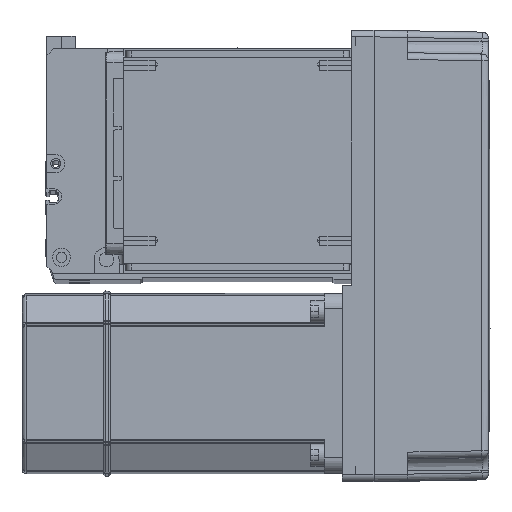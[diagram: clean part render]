
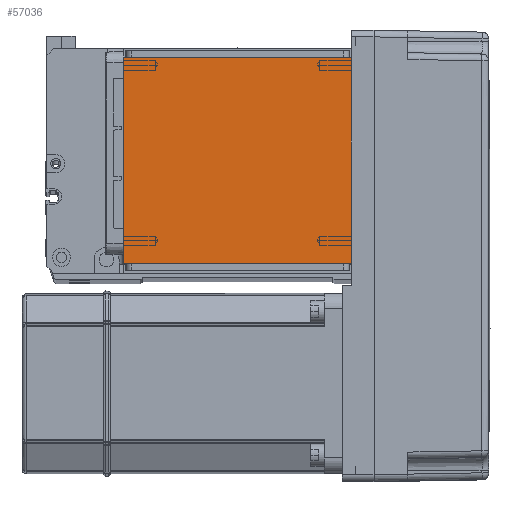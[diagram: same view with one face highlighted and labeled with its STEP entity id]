
A CAD part, top view. The second image highlights one B-rep face of the part: STEP entity #57036.
In plain terms, the highlighted planar face has unit normal (0, 0, 1).
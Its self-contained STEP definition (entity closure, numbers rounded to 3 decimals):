
#367 = DIRECTION ( 'NONE',  ( 1., 0., 0. ) ) ;
#2040 = LINE ( 'NONE', #57524, #12583 ) ;
#3543 = DIRECTION ( 'NONE',  ( -1., 0., 0. ) ) ;
#4272 = FACE_OUTER_BOUND ( 'NONE', #18452, .T. ) ;
#5786 = EDGE_CURVE ( 'NONE', #26214, #55968, #17794, .T. ) ;
#8210 = PLANE ( 'NONE',  #47196 ) ;
#8925 = ORIENTED_EDGE ( 'NONE', *, *, #15091, .T. ) ;
#12583 = VECTOR ( 'NONE', #22118, 1000. ) ;
#15091 = EDGE_CURVE ( 'NONE', #26214, #53129, #2040, .T. ) ;
#17794 = LINE ( 'NONE', #20639, #52103 ) ;
#18055 = CARTESIAN_POINT ( 'NONE',  ( 50.5, 111.5, 115. ) ) ;
#18095 = EDGE_CURVE ( 'NONE', #51033, #55968, #37117, .T. ) ;
#18452 = EDGE_LOOP ( 'NONE', ( #46085, #30205, #53503, #8925 ) ) ;
#20639 = CARTESIAN_POINT ( 'NONE',  ( -70.004, 20., 115. ) ) ;
#22118 = DIRECTION ( 'NONE',  ( 0., 1., 0. ) ) ;
#24552 = CARTESIAN_POINT ( 'NONE',  ( 50.5, 20., 115. ) ) ;
#26214 = VERTEX_POINT ( 'NONE', #24552 ) ;
#26543 = EDGE_CURVE ( 'NONE', #51033, #53129, #45972, .T. ) ;
#30205 = ORIENTED_EDGE ( 'NONE', *, *, #18095, .T. ) ;
#33989 = CARTESIAN_POINT ( 'NONE',  ( -50.5, 20., 115. ) ) ;
#36020 = CARTESIAN_POINT ( 'NONE',  ( -50.5, 122., 115. ) ) ;
#36040 = CARTESIAN_POINT ( 'NONE',  ( 0., 0., 115. ) ) ;
#37117 = LINE ( 'NONE', #36020, #46943 ) ;
#37857 = CARTESIAN_POINT ( 'NONE',  ( -50.5, 111.5, 115. ) ) ;
#40521 = DIRECTION ( 'NONE',  ( 0., -1., 0. ) ) ;
#44446 = CARTESIAN_POINT ( 'NONE',  ( -70.004, 111.5, 115. ) ) ;
#45972 = LINE ( 'NONE', #44446, #56458 ) ;
#46085 = ORIENTED_EDGE ( 'NONE', *, *, #26543, .F. ) ;
#46943 = VECTOR ( 'NONE', #40521, 1000. ) ;
#47196 = AXIS2_PLACEMENT_3D ( 'NONE', #36040, #57958, #48997 ) ;
#48997 = DIRECTION ( 'NONE',  ( 1., 0., 0. ) ) ;
#51033 = VERTEX_POINT ( 'NONE', #37857 ) ;
#52103 = VECTOR ( 'NONE', #3543, 1000. ) ;
#53129 = VERTEX_POINT ( 'NONE', #18055 ) ;
#53503 = ORIENTED_EDGE ( 'NONE', *, *, #5786, .F. ) ;
#55968 = VERTEX_POINT ( 'NONE', #33989 ) ;
#56458 = VECTOR ( 'NONE', #367, 1000. ) ;
#57036 = ADVANCED_FACE ( 'NONE', ( #4272 ), #8210, .T. ) ;
#57524 = CARTESIAN_POINT ( 'NONE',  ( 50.5, 122., 115. ) ) ;
#57958 = DIRECTION ( 'NONE',  ( 0., 0., 1. ) ) ;
